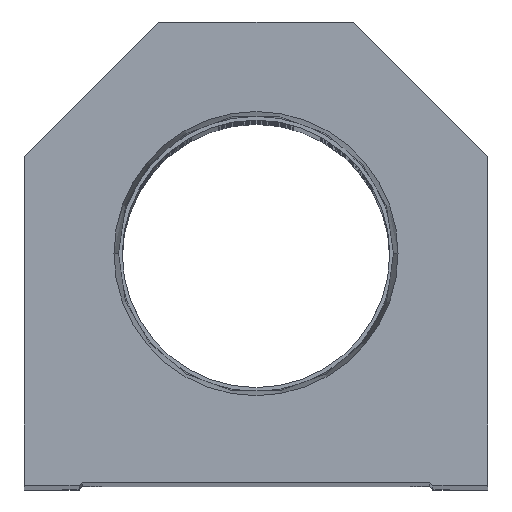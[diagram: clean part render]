
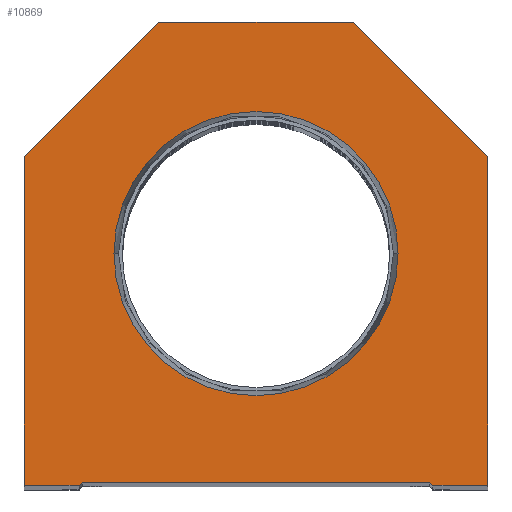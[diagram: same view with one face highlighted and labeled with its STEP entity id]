
A CAD part, top view. The second image highlights one B-rep face of the part: STEP entity #10869.
In plain terms, the highlighted planar face has unit normal (0, 0, 1).
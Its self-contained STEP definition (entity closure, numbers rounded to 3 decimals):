
#120 = EDGE_CURVE ( 'NONE', #25762, #19810, #13699, .T. ) ;
#499 = AXIS2_PLACEMENT_3D ( 'NONE', #25499, #17796, #19539 ) ;
#647 = CARTESIAN_POINT ( 'NONE',  ( -23.374, 38.1, 0. ) ) ;
#790 = ORIENTED_EDGE ( 'NONE', *, *, #9189, .T. ) ;
#1213 = VECTOR ( 'NONE', #5820, 1000. ) ;
#1260 = ORIENTED_EDGE ( 'NONE', *, *, #22717, .T. ) ;
#1526 = ORIENTED_EDGE ( 'NONE', *, *, #18203, .T. ) ;
#2135 = VECTOR ( 'NONE', #15880, 1000. ) ;
#2518 = CARTESIAN_POINT ( 'NONE',  ( 0., 38.1, 0. ) ) ;
#2797 = CARTESIAN_POINT ( 'NONE',  ( 14.55, 14.55, 0. ) ) ;
#3279 = VERTEX_POINT ( 'NONE', #11807 ) ;
#3296 = CARTESIAN_POINT ( 'NONE',  ( -29.1, 0., 0. ) ) ;
#3326 = VERTEX_POINT ( 'NONE', #3296 ) ;
#3388 = DIRECTION ( 'NONE',  ( -0.707, -0.707, 0. ) ) ;
#3539 = VERTEX_POINT ( 'NONE', #647 ) ;
#3557 = FACE_OUTER_BOUND ( 'NONE', #14470, .T. ) ;
#3673 = ORIENTED_EDGE ( 'NONE', *, *, #21790, .F. ) ;
#3894 = CIRCLE ( 'NONE', #11988, 23.374 ) ;
#3946 = LINE ( 'NONE', #12331, #1213 ) ;
#4834 = EDGE_CURVE ( 'NONE', #3326, #20976, #17406, .T. ) ;
#4992 = VERTEX_POINT ( 'NONE', #7427 ) ;
#5408 = LINE ( 'NONE', #21627, #8562 ) ;
#5820 = DIRECTION ( 'NONE',  ( 1., 0., 0. ) ) ;
#5930 = EDGE_CURVE ( 'NONE', #8772, #19941, #24992, .T. ) ;
#6008 = CIRCLE ( 'NONE', #22145, 23.374 ) ;
#6139 = EDGE_LOOP ( 'NONE', ( #16165, #3673 ) ) ;
#6140 = VECTOR ( 'NONE', #23122, 1000. ) ;
#6756 = VERTEX_POINT ( 'NONE', #17516 ) ;
#7283 = ORIENTED_EDGE ( 'NONE', *, *, #21486, .T. ) ;
#7427 = CARTESIAN_POINT ( 'NONE',  ( 23.374, 38.1, 0. ) ) ;
#7570 = DIRECTION ( 'NONE',  ( 1., 0., 0. ) ) ;
#7772 = LINE ( 'NONE', #22124, #2135 ) ;
#7936 = VECTOR ( 'NONE', #12464, 1000. ) ;
#8004 = DIRECTION ( 'NONE',  ( 1., 0., 0. ) ) ;
#8562 = VECTOR ( 'NONE', #3388, 1000. ) ;
#8772 = VERTEX_POINT ( 'NONE', #20174 ) ;
#9189 = EDGE_CURVE ( 'NONE', #9223, #21342, #5408, .T. ) ;
#9223 = VERTEX_POINT ( 'NONE', #10685 ) ;
#9644 = CARTESIAN_POINT ( 'NONE',  ( 16., 76.2, 0. ) ) ;
#9707 = PLANE ( 'NONE',  #499 ) ;
#10685 = CARTESIAN_POINT ( 'NONE',  ( -16., 76.2, 0. ) ) ;
#10811 = EDGE_CURVE ( 'NONE', #4992, #3539, #3894, .T. ) ;
#10869 = ADVANCED_FACE ( 'NONE', ( #13533, #3557 ), #9707, .T. ) ;
#10925 = LINE ( 'NONE', #19438, #15643 ) ;
#11277 = VECTOR ( 'NONE', #14890, 1000. ) ;
#11560 = EDGE_CURVE ( 'NONE', #6756, #9223, #19987, .T. ) ;
#11590 = CARTESIAN_POINT ( 'NONE',  ( -28.6, 0.5, 0. ) ) ;
#11711 = CARTESIAN_POINT ( 'NONE',  ( 38.1, 0., 0. ) ) ;
#11807 = CARTESIAN_POINT ( 'NONE',  ( -38.1, 0., 0. ) ) ;
#11988 = AXIS2_PLACEMENT_3D ( 'NONE', #13136, #13262, #7570 ) ;
#12331 = CARTESIAN_POINT ( 'NONE',  ( 28.6, 0., 0. ) ) ;
#12464 = DIRECTION ( 'NONE',  ( 0., 1., 0. ) ) ;
#13011 = CARTESIAN_POINT ( 'NONE',  ( -14.55, 14.55, 0. ) ) ;
#13123 = ORIENTED_EDGE ( 'NONE', *, *, #5930, .T. ) ;
#13136 = CARTESIAN_POINT ( 'NONE',  ( 0., 38.1, 0. ) ) ;
#13262 = DIRECTION ( 'NONE',  ( 0., 0., 1. ) ) ;
#13533 = FACE_BOUND ( 'NONE', #6139, .T. ) ;
#13699 = LINE ( 'NONE', #11711, #7936 ) ;
#13997 = ORIENTED_EDGE ( 'NONE', *, *, #11560, .T. ) ;
#14470 = EDGE_LOOP ( 'NONE', ( #7283, #17514, #17234, #13123, #1526, #21885, #1260, #13997, #790, #17329 ) ) ;
#14890 = DIRECTION ( 'NONE',  ( 0.707, -0.707, 0. ) ) ;
#15028 = LINE ( 'NONE', #16881, #6140 ) ;
#15045 = DIRECTION ( 'NONE',  ( 0., -1., 0. ) ) ;
#15643 = VECTOR ( 'NONE', #15045, 1000. ) ;
#15834 = CARTESIAN_POINT ( 'NONE',  ( 38.1, 0., 0. ) ) ;
#15880 = DIRECTION ( 'NONE',  ( 1., 0., 0. ) ) ;
#16165 = ORIENTED_EDGE ( 'NONE', *, *, #10811, .F. ) ;
#16508 = CARTESIAN_POINT ( 'NONE',  ( 29.1, 0., 0. ) ) ;
#16779 = VECTOR ( 'NONE', #18873, 1000. ) ;
#16881 = CARTESIAN_POINT ( 'NONE',  ( -28.6, 0.5, 0. ) ) ;
#17234 = ORIENTED_EDGE ( 'NONE', *, *, #23888, .T. ) ;
#17249 = EDGE_CURVE ( 'NONE', #21342, #3279, #10925, .T. ) ;
#17329 = ORIENTED_EDGE ( 'NONE', *, *, #17249, .T. ) ;
#17406 = LINE ( 'NONE', #13011, #16779 ) ;
#17514 = ORIENTED_EDGE ( 'NONE', *, *, #4834, .T. ) ;
#17516 = CARTESIAN_POINT ( 'NONE',  ( 16., 76.2, 0. ) ) ;
#17796 = DIRECTION ( 'NONE',  ( 0., 0., 1. ) ) ;
#18203 = EDGE_CURVE ( 'NONE', #19941, #25762, #3946, .T. ) ;
#18282 = DIRECTION ( 'NONE',  ( -0.707, 0.707, 0. ) ) ;
#18416 = CARTESIAN_POINT ( 'NONE',  ( 38.1, 54.1, 0. ) ) ;
#18873 = DIRECTION ( 'NONE',  ( 0.707, 0.707, 0. ) ) ;
#19438 = CARTESIAN_POINT ( 'NONE',  ( -38.1, 0., 0. ) ) ;
#19539 = DIRECTION ( 'NONE',  ( 1., 0., 0. ) ) ;
#19689 = VECTOR ( 'NONE', #18282, 1000. ) ;
#19810 = VERTEX_POINT ( 'NONE', #21328 ) ;
#19941 = VERTEX_POINT ( 'NONE', #16508 ) ;
#19987 = LINE ( 'NONE', #9644, #26026 ) ;
#20174 = CARTESIAN_POINT ( 'NONE',  ( 28.6, 0.5, 0. ) ) ;
#20976 = VERTEX_POINT ( 'NONE', #11590 ) ;
#21328 = CARTESIAN_POINT ( 'NONE',  ( 38.1, 54.1, 0. ) ) ;
#21342 = VERTEX_POINT ( 'NONE', #23583 ) ;
#21486 = EDGE_CURVE ( 'NONE', #3279, #3326, #7772, .T. ) ;
#21627 = CARTESIAN_POINT ( 'NONE',  ( -38.1, 54.1, 0. ) ) ;
#21790 = EDGE_CURVE ( 'NONE', #3539, #4992, #6008, .T. ) ;
#21885 = ORIENTED_EDGE ( 'NONE', *, *, #120, .T. ) ;
#22124 = CARTESIAN_POINT ( 'NONE',  ( -28.6, 0., 0. ) ) ;
#22145 = AXIS2_PLACEMENT_3D ( 'NONE', #2518, #26221, #8004 ) ;
#22717 = EDGE_CURVE ( 'NONE', #19810, #6756, #22780, .T. ) ;
#22780 = LINE ( 'NONE', #18416, #19689 ) ;
#23122 = DIRECTION ( 'NONE',  ( 1., 0., 0. ) ) ;
#23583 = CARTESIAN_POINT ( 'NONE',  ( -38.1, 54.1, 0. ) ) ;
#23838 = DIRECTION ( 'NONE',  ( -1., 0., 0. ) ) ;
#23888 = EDGE_CURVE ( 'NONE', #20976, #8772, #15028, .T. ) ;
#24992 = LINE ( 'NONE', #2797, #11277 ) ;
#25499 = CARTESIAN_POINT ( 'NONE',  ( 0., 0., 0. ) ) ;
#25762 = VERTEX_POINT ( 'NONE', #15834 ) ;
#26026 = VECTOR ( 'NONE', #23838, 1000. ) ;
#26221 = DIRECTION ( 'NONE',  ( 0., 0., 1. ) ) ;
